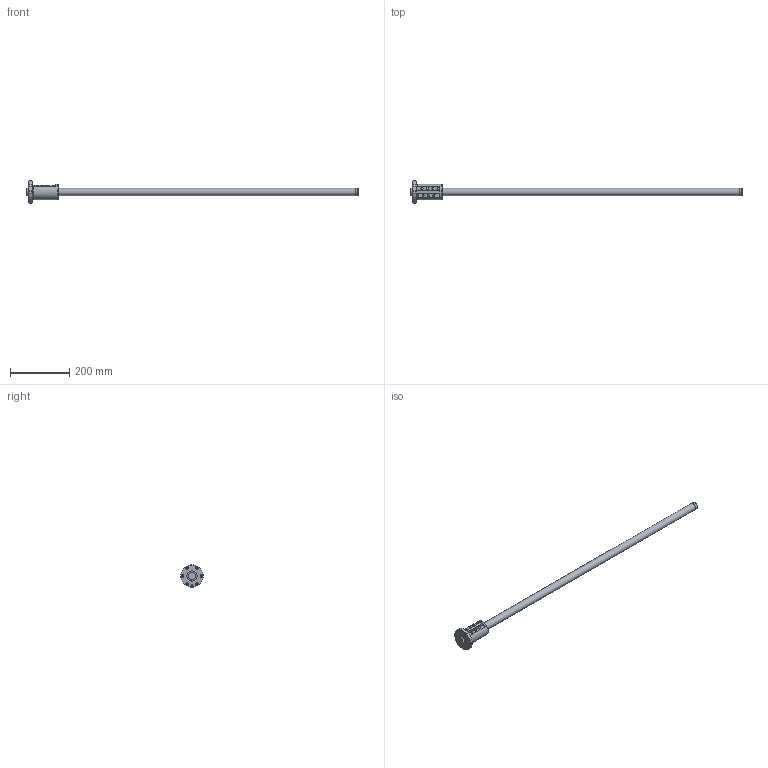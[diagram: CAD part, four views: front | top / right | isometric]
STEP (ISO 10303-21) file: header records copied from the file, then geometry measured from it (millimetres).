
FILE_DESCRIPTION( ( 'STEP AP203' ), ' ' );
FILE_NAME( 'p:/temp/worker_16/3916_4020/app_89_12018011811234414143314818fa3fd_000000_00_00_000000/format_0/BIF2506-10RRG0+1118LC1_10000.stp', '2018-01-18T10:23:45', ( '' ), ( '' ), ' ', 'PARTsolutions', ' ' );
FILE_SCHEMA( ( 'CONFIG_CONTROL_DESIGN' ) );
Length unit declared in the file: millimetre
Products named in the file (3): BIF2506-10RRG0+1118LC1_10000; _BIF 2506-10RR1000500 Shaft; _BIF 2506-10RR Nut
Assembly tree (2 placements, depth 2):
  BIF2506-10RRG0+1118LC1_10000
    _BIF 2506-10RR1000500 Shaft
    _BIF 2506-10RR Nut
Bounding box: 1118 x 76 x 76 mm (x, y, z)
Volume: 723228.1 mm3; surface area: 124841.5 mm2
Topology: 2 solids, 2 shells, 82 faces, 186 edges, 121 vertices
Faces by surface type: cylinder 39, plane 27, cone 8, torus 8
Full cylindrical faces by diameter (mm): 4.25 x2, 4.917 x1, 5.5 x6, 9.5 x6, 24.5 x2, 25 x4, 34.8 x2, 53 x1, 76 x1
Entity records: 2744 total; most frequent: CARTESIAN_POINT 881, DIRECTION 384, ORIENTED_EDGE 294, AXIS2_PLACEMENT_3D 168, EDGE_CURVE 147, EDGE_LOOP 144, VERTEX_POINT 115, FACE_OUTER_BOUND 107
